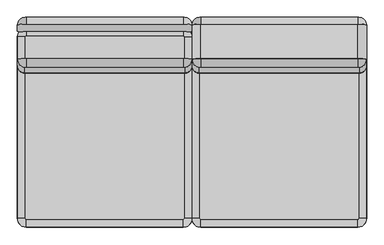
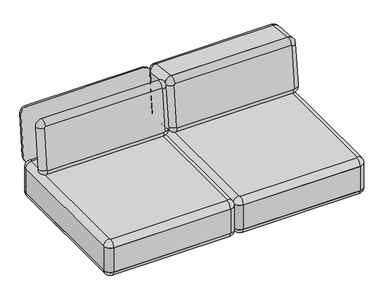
"""IFC4 building model written with IfcOpenShell, lengths in millimetres: furniture geometry, Sofa_Bensen_Neo_NEO200IT : Sofa_Bensen_Neo_NEO200IT."""

from ifc_helpers import new_model, si_unit, point, frame, frame_2d, origin, place, context, project, spatial, polyline, circle_curve, ellipse_curve, trimmed, segment, composite_curve, outline, extrude, source, transform, mapped, element, save
from ifc_brep_helpers import plane_surface, cylinder_surface, revolved_surface, advanced_brep


def furniture_4171b688(model_context):
    return source(origin(), model_context, "Body", "SolidModel", [
        advanced_brep(
        [(664.9999999, -485.7516759, 289.4004127), (699.9999999, -450.7516759, 289.4004127), (699.9999999, 279.2483241, 289.4004127), (664.9999999, 314.2483241, 289.4004127), (34.9999999, 314.2483241, 289.4004127), (-1e-07, 279.2483241, 289.4004127), (-1e-07, -450.7516759, 289.4004127), (34.9999999, -485.7516759, 289.4004127), (669.9999999, -450.7516759, 259.4004127), (664.9999999, -455.7516759, 259.4004127), (34.9999999, -455.7516759, 259.4004127), (29.9999999, -450.7516759, 259.4004127), (29.9999999, 279.2483241, 259.4004127), (34.9999999, 284.2483241, 259.4004127), (664.9999999, 284.2483241, 259.4004127), (669.9999999, 279.2483241, 259.4004127)],
        [
            (0, 1, circle_curve(frame((664.9999999, -450.7516759, 289.4004127), z_axis=(0.0, 0.0, 1.0), x_axis=(1.0, 0.0, 0.0)), 35.0)),
            (1, 2),
            (2, 3, circle_curve(frame((664.9999999, 279.2483241, 289.4004127), z_axis=(0.0, 0.0, 1.0), x_axis=(0.0, 1.0, 0.0)), 35.0)),
            (3, 4),
            (4, 5, circle_curve(frame((34.9999999, 279.2483241, 289.4004127), z_axis=(0.0, 0.0, 1.0), x_axis=(-1.0, 0.0, 0.0)), 35.0)),
            (5, 6),
            (6, 7, circle_curve(frame((34.9999999, -450.7516759, 289.4004127), z_axis=(0.0, 0.0, 1.0), x_axis=(0.0, -1.0, 0.0)), 35.0)),
            (7, 0),
            (8, 9, circle_curve(frame((664.9999999, -450.7516759, 259.4004127), z_axis=(0.0, 0.0, -1.0), x_axis=(1.0, 0.0, 0.0)), 5.0)),
            (9, 10),
            (10, 11, circle_curve(frame((34.9999999, -450.7516759, 259.4004127), z_axis=(0.0, 0.0, -1.0), x_axis=(0.0, -1.0, 0.0)), 5.0)),
            (11, 12),
            (12, 13, circle_curve(frame((34.9999999, 279.2483241, 259.4004127), z_axis=(0.0, 0.0, -1.0), x_axis=(-1.0, 0.0, 0.0)), 5.0)),
            (13, 14),
            (14, 15, circle_curve(frame((664.9999999, 279.2483241, 259.4004127), z_axis=(0.0, 0.0, -1.0), x_axis=(0.0, 1.0, 0.0)), 5.0)),
            (15, 8),
            (8, 1, circle_curve(frame((669.9999999, -450.7516759, 289.4004127), z_axis=(0.0, -1.0, 0.0), x_axis=(1.0, 0.0, 0.0)), 30.0)),
            (0, 9, circle_curve(frame((664.9999999, -455.7516759, 289.4004127), z_axis=(1.0, 0.0, 0.0), x_axis=(0.0, -1.0, 0.0)), 30.0)),
            (7, 10, circle_curve(frame((34.9999999, -455.7516759, 289.4004127), z_axis=(1.0, 0.0, 0.0), x_axis=(0.0, -1.0, 0.0)), 30.0)),
            (6, 11, circle_curve(frame((29.9999999, -450.7516759, 289.4004127), z_axis=(0.0, -1.0, 0.0), x_axis=(-1.0, 0.0, 0.0)), 30.0)),
            (5, 12, circle_curve(frame((29.9999999, 279.2483241, 289.4004127), z_axis=(0.0, -1.0, 0.0), x_axis=(-1.0, 0.0, 0.0)), 30.0)),
            (4, 13, circle_curve(frame((34.9999999, 284.2483241, 289.4004127), z_axis=(-1.0, 0.0, 0.0), x_axis=(0.0, 1.0, 0.0)), 30.0)),
            (3, 14, circle_curve(frame((664.9999999, 284.2483241, 289.4004127), z_axis=(-1.0, 0.0, 0.0), x_axis=(0.0, 1.0, 0.0)), 30.0)),
            (2, 15, circle_curve(frame((669.9999999, 279.2483241, 289.4004127), z_axis=(0.0, 1.0, 0.0), x_axis=(1.0, 0.0, 0.0)), 30.0)),
        ],
        [
            plane_surface(frame((664.9999999, 274.2483241, 289.4004127), z_axis=(0.0, 0.0, 1.0), x_axis=(1.0, 0.0, 0.0))),
            plane_surface(frame((664.9999999, 274.2483241, 259.4004127), z_axis=(0.0, 0.0, -1.0), x_axis=(-1.0, 0.0, 0.0))),
            revolved_surface(trimmed(ellipse_curve(frame((669.9999999, -450.7516759, 289.4004127), z_axis=(0.0, 1.0, 0.0), x_axis=(1.0, 0.0, 0.0)), 30.0, 30.0), [point((699.9999999, -450.7516759, 289.4004127))], [point((669.9999999, -450.7516759, 259.4004127))], True, "CARTESIAN"), (664.9999999, -450.7516759, 289.4004127), (0.0, 0.0, -1.0)),
            cylinder_surface(frame((664.9999999, -455.7516759, 289.4004127), z_axis=(1.0, 0.0, 0.0), x_axis=(0.0, -1.0, 0.0)), 30.0),
            revolved_surface(trimmed(ellipse_curve(frame((34.9999999, -455.7516759, 289.4004127), z_axis=(1.0, 0.0, 0.0), x_axis=(0.0, -1.0, 0.0)), 30.0, 30.0), [point((34.9999999, -485.7516759, 289.4004127))], [point((34.9999999, -455.7516759, 259.4004127))], True, "CARTESIAN"), (34.9999999, -450.7516759, 289.4004127), (0.0, 0.0, -1.0)),
            cylinder_surface(frame((29.9999999, -450.7516759, 289.4004127), z_axis=(0.0, -1.0, 0.0), x_axis=(-1.0, 0.0, 0.0)), 30.0),
            revolved_surface(trimmed(ellipse_curve(frame((29.9999999, 279.2483241, 289.4004127), z_axis=(0.0, -1.0, 0.0), x_axis=(-1.0, 0.0, 0.0)), 30.0, 30.0), [point((-1e-07, 279.2483241, 289.4004127))], [point((29.9999999, 279.2483241, 259.4004127))], True, "CARTESIAN"), (34.9999999, 279.2483241, 289.4004127), (0.0, 0.0, -1.0)),
            cylinder_surface(frame((34.9999999, 284.2483241, 289.4004127), z_axis=(-1.0, 0.0, 0.0), x_axis=(0.0, 1.0, 0.0)), 30.0),
            revolved_surface(trimmed(ellipse_curve(frame((664.9999999, 284.2483241, 289.4004127), z_axis=(-1.0, 0.0, 0.0), x_axis=(0.0, 1.0, 0.0)), 30.0, 30.0), [point((664.9999999, 314.2483241, 289.4004127))], [point((664.9999999, 284.2483241, 259.4004127))], True, "CARTESIAN"), (664.9999999, 279.2483241, 289.4004127), (0.0, 0.0, -1.0)),
            cylinder_surface(frame((669.9999999, 279.2483241, 289.4004127), z_axis=(0.0, 1.0, 0.0), x_axis=(1.0, 0.0, 0.0)), 30.0),
        ],
        [
            (0, [[1, 2, 3, 4, 5, 6, 7, 8]]),
            (1, [[9, 10, 11, 12, 13, 14, 15, 16]]),
            (2, [[17, -1, 18, -9]]),
            (3, [[-18, -8, 19, -10]]),
            (4, [[-19, -7, 20, -11]]),
            (5, [[-20, -6, 21, -12]]),
            (6, [[-21, -5, 22, -13]]),
            (7, [[-22, -4, 23, -14]]),
            (8, [[-23, -3, 24, -15]]),
            (9, [[-17, -16, -24, -2]]),
        ],
    ),
        advanced_brep(
        [(664.9999999, -485.7516759, 429.4004127), (699.9999999, -450.7516759, 429.4004127), (669.9999999, -450.7516759, 459.4004127), (664.9999999, -455.7516759, 459.4004127), (34.9999999, -455.7516759, 459.4004127), (34.9999999, -485.7516759, 429.4004127), (29.9999999, -450.7516759, 459.4004127), (-1e-07, -450.7516759, 429.4004127), (29.9999999, 279.2483241, 459.4004127), (-1e-07, 279.2483241, 429.4004127), (34.9999999, 284.2483241, 459.4004127), (34.9999999, 314.2483241, 429.4004127), (664.9999999, 284.2483241, 459.4004127), (664.9999999, 314.2483241, 429.4004127), (669.9999999, 279.2483241, 459.4004127), (699.9999999, 279.2483241, 429.4004127)],
        [
            (0, 1, circle_curve(frame((664.9999999, -450.7516759, 429.4004127), z_axis=(0.0, 0.0, 1.0), x_axis=(1.0, 0.0, 0.0)), 35.0)),
            (1, 2, circle_curve(frame((669.9999999, -450.7516759, 429.4004127), z_axis=(0.0, -1.0, 0.0), x_axis=(1.0, 0.0, 0.0)), 30.0)),
            (2, 3, circle_curve(frame((664.9999999, -450.7516759, 459.4004127), z_axis=(0.0, 0.0, -1.0), x_axis=(1.0, 0.0, 0.0)), 5.0)),
            (3, 0, circle_curve(frame((664.9999999, -455.7516759, 429.4004127), z_axis=(1.0, 0.0, 0.0), x_axis=(0.0, -1.0, 0.0)), 30.0)),
            (3, 4),
            (4, 5, circle_curve(frame((34.9999999, -455.7516759, 429.4004127), z_axis=(1.0, 0.0, 0.0), x_axis=(0.0, -1.0, 0.0)), 30.0)),
            (5, 0),
            (4, 6, circle_curve(frame((34.9999999, -450.7516759, 459.4004127), z_axis=(0.0, 0.0, -1.0), x_axis=(0.0, -1.0, 0.0)), 5.0)),
            (6, 7, circle_curve(frame((29.9999999, -450.7516759, 429.4004127), z_axis=(0.0, -1.0, 0.0), x_axis=(-1.0, 0.0, 0.0)), 30.0)),
            (7, 5, circle_curve(frame((34.9999999, -450.7516759, 429.4004127), z_axis=(0.0, 0.0, 1.0), x_axis=(0.0, -1.0, 0.0)), 35.0)),
            (6, 8),
            (8, 9, circle_curve(frame((29.9999999, 279.2483241, 429.4004127), z_axis=(0.0, -1.0, 0.0), x_axis=(-1.0, 0.0, 0.0)), 30.0)),
            (9, 7),
            (8, 10, circle_curve(frame((34.9999999, 279.2483241, 459.4004127), z_axis=(0.0, 0.0, -1.0), x_axis=(-1.0, 0.0, 0.0)), 5.0)),
            (10, 11, circle_curve(frame((34.9999999, 284.2483241, 429.4004127), z_axis=(-1.0, 0.0, 0.0), x_axis=(0.0, 1.0, 0.0)), 30.0)),
            (11, 9, circle_curve(frame((34.9999999, 279.2483241, 429.4004127), z_axis=(0.0, 0.0, 1.0), x_axis=(-1.0, 0.0, 0.0)), 35.0)),
            (10, 12),
            (12, 13, circle_curve(frame((664.9999999, 284.2483241, 429.4004127), z_axis=(-1.0, 0.0, 0.0), x_axis=(0.0, 1.0, 0.0)), 30.0)),
            (13, 11),
            (12, 14, circle_curve(frame((664.9999999, 279.2483241, 459.4004127), z_axis=(0.0, 0.0, -1.0), x_axis=(0.0, 1.0, 0.0)), 5.0)),
            (14, 15, circle_curve(frame((669.9999999, 279.2483241, 429.4004127), z_axis=(0.0, 1.0, 0.0), x_axis=(1.0, 0.0, 0.0)), 30.0)),
            (15, 13, circle_curve(frame((664.9999999, 279.2483241, 429.4004127), z_axis=(0.0, 0.0, 1.0), x_axis=(0.0, 1.0, 0.0)), 35.0)),
            (1, 15),
            (14, 2),
        ],
        [
            revolved_surface(trimmed(ellipse_curve(frame((669.9999999, -450.7516759, 429.4004127), z_axis=(0.0, 1.0, 0.0), x_axis=(1.0, 0.0, 0.0)), 30.0, 30.0), [point((669.9999999, -450.7516759, 459.4004127))], [point((699.9999999, -450.7516759, 429.4004127))], True, "CARTESIAN"), (664.9999999, -450.7516759, 259.4004127), (0.0, 0.0, -1.0)),
            cylinder_surface(frame((664.9999999, -455.7516759, 429.4004127), z_axis=(1.0, 0.0, 0.0), x_axis=(0.0, -1.0, 0.0)), 30.0),
            revolved_surface(trimmed(ellipse_curve(frame((34.9999999, -455.7516759, 429.4004127), z_axis=(1.0, 0.0, 0.0), x_axis=(0.0, -1.0, 0.0)), 30.0, 30.0), [point((34.9999999, -455.7516759, 459.4004127))], [point((34.9999999, -485.7516759, 429.4004127))], True, "CARTESIAN"), (34.9999999, -450.7516759, 259.4004127), (0.0, 0.0, -1.0)),
            cylinder_surface(frame((29.9999999, -450.7516759, 429.4004127), z_axis=(0.0, -1.0, 0.0), x_axis=(-1.0, 0.0, 0.0)), 30.0),
            revolved_surface(trimmed(ellipse_curve(frame((29.9999999, 279.2483241, 429.4004127), z_axis=(0.0, -1.0, 0.0), x_axis=(-1.0, 0.0, 0.0)), 30.0, 30.0), [point((29.9999999, 279.2483241, 459.4004127))], [point((-1e-07, 279.2483241, 429.4004127))], True, "CARTESIAN"), (34.9999999, 279.2483241, 259.4004127), (0.0, 0.0, -1.0)),
            cylinder_surface(frame((34.9999999, 284.2483241, 429.4004127), z_axis=(-1.0, 0.0, 0.0), x_axis=(0.0, 1.0, 0.0)), 30.0),
            revolved_surface(trimmed(ellipse_curve(frame((664.9999999, 284.2483241, 429.4004127), z_axis=(-1.0, 0.0, 0.0), x_axis=(0.0, 1.0, 0.0)), 30.0, 30.0), [point((664.9999999, 284.2483241, 459.4004127))], [point((664.9999999, 314.2483241, 429.4004127))], True, "CARTESIAN"), (664.9999999, 279.2483241, 259.4004127), (0.0, 0.0, -1.0)),
            cylinder_surface(frame((669.9999999, 279.2483241, 429.4004127), z_axis=(0.0, 1.0, 0.0), x_axis=(1.0, 0.0, 0.0)), 30.0),
            plane_surface(frame((699.9999999, 279.2483241, 429.4004127), z_axis=(0.0, 0.0, -1.0), x_axis=(0.0, -1.0, 0.0))),
            plane_surface(frame((664.9999999, 274.2483241, 459.4004127), z_axis=(0.0, 0.0, 1.0), x_axis=(1.0, 0.0, 0.0))),
        ],
        [
            (0, [[1, 2, 3, 4]]),
            (1, [[-4, 5, 6, 7]]),
            (2, [[-6, 8, 9, 10]]),
            (3, [[-9, 11, 12, 13]]),
            (4, [[-12, 14, 15, 16]]),
            (5, [[-15, 17, 18, 19]]),
            (6, [[-18, 20, 21, 22]]),
            (7, [[-2, 23, -21, 24]]),
            (8, [[-1, -7, -10, -13, -16, -19, -22, -23]]),
            (9, [[-3, -24, -20, -17, -14, -11, -8, -5]]),
        ],
    ),
        extrude(outline(composite_curve([segment(polyline([(699.9999999, 279.2483241), (699.9999999, -450.7516759)]), True, "CONTINUOUS"), segment(trimmed(circle_curve(frame_2d((664.9999999, -450.7516759)), 35.0), [point((699.9999999, -450.7516759))], [point((664.9999999, -485.7516759))], False, "CARTESIAN"), True, "CONTINUOUS"), segment(polyline([(664.9999999, -485.7516759), (34.9999999, -485.7516759)]), True, "CONTINUOUS"), segment(trimmed(circle_curve(frame_2d((34.9999999, -450.7516759)), 35.0), [point((34.9999999, -485.7516759))], [point((-1e-07, -450.7516759))], False, "CARTESIAN"), True, "CONTINUOUS"), segment(polyline([(-1e-07, -450.7516759), (-1e-07, 279.2483241)]), True, "CONTINUOUS"), segment(trimmed(circle_curve(frame_2d((34.9999999, 279.2483241)), 35.0), [point((-1e-07, 279.2483241))], [point((34.9999999, 314.2483241))], False, "CARTESIAN"), True, "CONTINUOUS"), segment(polyline([(34.9999999, 314.2483241), (664.9999999, 314.2483241)]), True, "CONTINUOUS"), segment(trimmed(circle_curve(frame_2d((664.9999999, 279.2483241)), 35.0), [point((664.9999999, 314.2483241))], [point((699.9999999, 279.2483241))], False, "CARTESIAN"), True, "CONTINUOUS")], self_intersect=False)), frame((0.0, 0.0, 289.4004127), z_axis=(0.0, 0.0, 1.0), x_axis=(1.0, 0.0, 0.0)), (0.0, 0.0, 1.0), 140.0),
        advanced_brep(
        [(-35.0000001, -485.7516759, 289.4004127), (-1e-07, -450.7516759, 289.4004127), (-1e-07, 279.2483241, 289.4004127), (-35.0000001, 314.2483241, 289.4004127), (-665.0000001, 314.2483241, 289.4004127), (-700.0000001, 279.2483241, 289.4004127), (-700.0000001, -450.7516759, 289.4004127), (-665.0000001, -485.7516759, 289.4004127), (-30.0000001, -450.7516759, 259.4004127), (-35.0000001, -455.7516759, 259.4004127), (-665.0000001, -455.7516759, 259.4004127), (-670.0000001, -450.7516759, 259.4004127), (-670.0000001, 279.2483241, 259.4004127), (-665.0000001, 284.2483241, 259.4004127), (-35.0000001, 284.2483241, 259.4004127), (-30.0000001, 279.2483241, 259.4004127)],
        [
            (0, 1, circle_curve(frame((-35.0000001, -450.7516759, 289.4004127), z_axis=(0.0, 0.0, 1.0), x_axis=(1.0, 0.0, 0.0)), 35.0)),
            (1, 2),
            (2, 3, circle_curve(frame((-35.0000001, 279.2483241, 289.4004127), z_axis=(0.0, 0.0, 1.0), x_axis=(0.0, 1.0, 0.0)), 35.0)),
            (3, 4),
            (4, 5, circle_curve(frame((-665.0000001, 279.2483241, 289.4004127), z_axis=(0.0, 0.0, 1.0), x_axis=(-1.0, 0.0, 0.0)), 35.0)),
            (5, 6),
            (6, 7, circle_curve(frame((-665.0000001, -450.7516759, 289.4004127), z_axis=(0.0, 0.0, 1.0), x_axis=(0.0, -1.0, 0.0)), 35.0)),
            (7, 0),
            (8, 9, circle_curve(frame((-35.0000001, -450.7516759, 259.4004127), z_axis=(0.0, 0.0, -1.0), x_axis=(1.0, 0.0, 0.0)), 5.0)),
            (9, 10),
            (10, 11, circle_curve(frame((-665.0000001, -450.7516759, 259.4004127), z_axis=(0.0, 0.0, -1.0), x_axis=(0.0, -1.0, 0.0)), 5.0)),
            (11, 12),
            (12, 13, circle_curve(frame((-665.0000001, 279.2483241, 259.4004127), z_axis=(0.0, 0.0, -1.0), x_axis=(-1.0, 0.0, 0.0)), 5.0)),
            (13, 14),
            (14, 15, circle_curve(frame((-35.0000001, 279.2483241, 259.4004127), z_axis=(0.0, 0.0, -1.0), x_axis=(0.0, 1.0, 0.0)), 5.0)),
            (15, 8),
            (8, 1, circle_curve(frame((-30.0000001, -450.7516759, 289.4004127), z_axis=(0.0, -1.0, 0.0), x_axis=(1.0, 0.0, 0.0)), 30.0)),
            (0, 9, circle_curve(frame((-35.0000001, -455.7516759, 289.4004127), z_axis=(1.0, 0.0, 0.0), x_axis=(0.0, -1.0, 0.0)), 30.0)),
            (7, 10, circle_curve(frame((-665.0000001, -455.7516759, 289.4004127), z_axis=(1.0, 0.0, 0.0), x_axis=(0.0, -1.0, 0.0)), 30.0)),
            (6, 11, circle_curve(frame((-670.0000001, -450.7516759, 289.4004127), z_axis=(0.0, -1.0, 0.0), x_axis=(-1.0, 0.0, 0.0)), 30.0)),
            (5, 12, circle_curve(frame((-670.0000001, 279.2483241, 289.4004127), z_axis=(0.0, -1.0, 0.0), x_axis=(-1.0, 0.0, 0.0)), 30.0)),
            (4, 13, circle_curve(frame((-665.0000001, 284.2483241, 289.4004127), z_axis=(-1.0, 0.0, 0.0), x_axis=(0.0, 1.0, 0.0)), 30.0)),
            (3, 14, circle_curve(frame((-35.0000001, 284.2483241, 289.4004127), z_axis=(-1.0, 0.0, 0.0), x_axis=(0.0, 1.0, 0.0)), 30.0)),
            (2, 15, circle_curve(frame((-30.0000001, 279.2483241, 289.4004127), z_axis=(0.0, 1.0, 0.0), x_axis=(1.0, 0.0, 0.0)), 30.0)),
        ],
        [
            plane_surface(frame((-35.0000001, 274.2483241, 289.4004127), z_axis=(0.0, 0.0, 1.0), x_axis=(1.0, 0.0, 0.0))),
            plane_surface(frame((-35.0000001, 274.2483241, 259.4004127), z_axis=(0.0, 0.0, -1.0), x_axis=(-1.0, 0.0, 0.0))),
            revolved_surface(trimmed(ellipse_curve(frame((-30.0000001, -450.7516759, 289.4004127), z_axis=(0.0, 1.0, 0.0), x_axis=(1.0, 0.0, 0.0)), 30.0, 30.0), [point((-1e-07, -450.7516759, 289.4004127))], [point((-30.0000001, -450.7516759, 259.4004127))], True, "CARTESIAN"), (-35.0000001, -450.7516759, 289.4004127), (0.0, 0.0, -1.0)),
            cylinder_surface(frame((-35.0000001, -455.7516759, 289.4004127), z_axis=(1.0, 0.0, 0.0), x_axis=(0.0, -1.0, 0.0)), 30.0),
            revolved_surface(trimmed(ellipse_curve(frame((-665.0000001, -455.7516759, 289.4004127), z_axis=(1.0, 0.0, 0.0), x_axis=(0.0, -1.0, 0.0)), 30.0, 30.0), [point((-665.0000001, -485.7516759, 289.4004127))], [point((-665.0000001, -455.7516759, 259.4004127))], True, "CARTESIAN"), (-665.0000001, -450.7516759, 289.4004127), (0.0, 0.0, -1.0)),
            cylinder_surface(frame((-670.0000001, -450.7516759, 289.4004127), z_axis=(0.0, -1.0, 0.0), x_axis=(-1.0, 0.0, 0.0)), 30.0),
            revolved_surface(trimmed(ellipse_curve(frame((-670.0000001, 279.2483241, 289.4004127), z_axis=(0.0, -1.0, 0.0), x_axis=(-1.0, 0.0, 0.0)), 30.0, 30.0), [point((-700.0000001, 279.2483241, 289.4004127))], [point((-670.0000001, 279.2483241, 259.4004127))], True, "CARTESIAN"), (-665.0000001, 279.2483241, 289.4004127), (0.0, 0.0, -1.0)),
            cylinder_surface(frame((-665.0000001, 284.2483241, 289.4004127), z_axis=(-1.0, 0.0, 0.0), x_axis=(0.0, 1.0, 0.0)), 30.0),
            revolved_surface(trimmed(ellipse_curve(frame((-35.0000001, 284.2483241, 289.4004127), z_axis=(-1.0, 0.0, 0.0), x_axis=(0.0, 1.0, 0.0)), 30.0, 30.0), [point((-35.0000001, 314.2483241, 289.4004127))], [point((-35.0000001, 284.2483241, 259.4004127))], True, "CARTESIAN"), (-35.0000001, 279.2483241, 289.4004127), (0.0, 0.0, -1.0)),
            cylinder_surface(frame((-30.0000001, 279.2483241, 289.4004127), z_axis=(0.0, 1.0, 0.0), x_axis=(1.0, 0.0, 0.0)), 30.0),
        ],
        [
            (0, [[1, 2, 3, 4, 5, 6, 7, 8]]),
            (1, [[9, 10, 11, 12, 13, 14, 15, 16]]),
            (2, [[17, -1, 18, -9]]),
            (3, [[-18, -8, 19, -10]]),
            (4, [[-19, -7, 20, -11]]),
            (5, [[-20, -6, 21, -12]]),
            (6, [[-21, -5, 22, -13]]),
            (7, [[-22, -4, 23, -14]]),
            (8, [[-23, -3, 24, -15]]),
            (9, [[-17, -16, -24, -2]]),
        ],
    ),
        advanced_brep(
        [(-35.0000001, -485.7516759, 429.4004127), (-1e-07, -450.7516759, 429.4004127), (-30.0000001, -450.7516759, 459.4004127), (-35.0000001, -455.7516759, 459.4004127), (-665.0000001, -455.7516759, 459.4004127), (-665.0000001, -485.7516759, 429.4004127), (-670.0000001, -450.7516759, 459.4004127), (-700.0000001, -450.7516759, 429.4004127), (-670.0000001, 279.2483241, 459.4004127), (-700.0000001, 279.2483241, 429.4004127), (-665.0000001, 284.2483241, 459.4004127), (-665.0000001, 314.2483241, 429.4004127), (-35.0000001, 284.2483241, 459.4004127), (-35.0000001, 314.2483241, 429.4004127), (-30.0000001, 279.2483241, 459.4004127), (-1e-07, 279.2483241, 429.4004127)],
        [
            (0, 1, circle_curve(frame((-35.0000001, -450.7516759, 429.4004127), z_axis=(0.0, 0.0, 1.0), x_axis=(1.0, 0.0, 0.0)), 35.0)),
            (1, 2, circle_curve(frame((-30.0000001, -450.7516759, 429.4004127), z_axis=(0.0, -1.0, 0.0), x_axis=(1.0, 0.0, 0.0)), 30.0)),
            (2, 3, circle_curve(frame((-35.0000001, -450.7516759, 459.4004127), z_axis=(0.0, 0.0, -1.0), x_axis=(1.0, 0.0, 0.0)), 5.0)),
            (3, 0, circle_curve(frame((-35.0000001, -455.7516759, 429.4004127), z_axis=(1.0, 0.0, 0.0), x_axis=(0.0, -1.0, 0.0)), 30.0)),
            (3, 4),
            (4, 5, circle_curve(frame((-665.0000001, -455.7516759, 429.4004127), z_axis=(1.0, 0.0, 0.0), x_axis=(0.0, -1.0, 0.0)), 30.0)),
            (5, 0),
            (4, 6, circle_curve(frame((-665.0000001, -450.7516759, 459.4004127), z_axis=(0.0, 0.0, -1.0), x_axis=(0.0, -1.0, 0.0)), 5.0)),
            (6, 7, circle_curve(frame((-670.0000001, -450.7516759, 429.4004127), z_axis=(0.0, -1.0, 0.0), x_axis=(-1.0, 0.0, 0.0)), 30.0)),
            (7, 5, circle_curve(frame((-665.0000001, -450.7516759, 429.4004127), z_axis=(0.0, 0.0, 1.0), x_axis=(0.0, -1.0, 0.0)), 35.0)),
            (6, 8),
            (8, 9, circle_curve(frame((-670.0000001, 279.2483241, 429.4004127), z_axis=(0.0, -1.0, 0.0), x_axis=(-1.0, 0.0, 0.0)), 30.0)),
            (9, 7),
            (8, 10, circle_curve(frame((-665.0000001, 279.2483241, 459.4004127), z_axis=(0.0, 0.0, -1.0), x_axis=(-1.0, 0.0, 0.0)), 5.0)),
            (10, 11, circle_curve(frame((-665.0000001, 284.2483241, 429.4004127), z_axis=(-1.0, 0.0, 0.0), x_axis=(0.0, 1.0, 0.0)), 30.0)),
            (11, 9, circle_curve(frame((-665.0000001, 279.2483241, 429.4004127), z_axis=(0.0, 0.0, 1.0), x_axis=(-1.0, 0.0, 0.0)), 35.0)),
            (10, 12),
            (12, 13, circle_curve(frame((-35.0000001, 284.2483241, 429.4004127), z_axis=(-1.0, 0.0, 0.0), x_axis=(0.0, 1.0, 0.0)), 30.0)),
            (13, 11),
            (12, 14, circle_curve(frame((-35.0000001, 279.2483241, 459.4004127), z_axis=(0.0, 0.0, -1.0), x_axis=(0.0, 1.0, 0.0)), 5.0)),
            (14, 15, circle_curve(frame((-30.0000001, 279.2483241, 429.4004127), z_axis=(0.0, 1.0, 0.0), x_axis=(1.0, 0.0, 0.0)), 30.0)),
            (15, 13, circle_curve(frame((-35.0000001, 279.2483241, 429.4004127), z_axis=(0.0, 0.0, 1.0), x_axis=(0.0, 1.0, 0.0)), 35.0)),
            (1, 15),
            (14, 2),
        ],
        [
            revolved_surface(trimmed(ellipse_curve(frame((-30.0000001, -450.7516759, 429.4004127), z_axis=(0.0, 1.0, 0.0), x_axis=(1.0, 0.0, 0.0)), 30.0, 30.0), [point((-30.0000001, -450.7516759, 459.4004127))], [point((-1e-07, -450.7516759, 429.4004127))], True, "CARTESIAN"), (-35.0000001, -450.7516759, 259.4004127), (0.0, 0.0, -1.0)),
            cylinder_surface(frame((-35.0000001, -455.7516759, 429.4004127), z_axis=(1.0, 0.0, 0.0), x_axis=(0.0, -1.0, 0.0)), 30.0),
            revolved_surface(trimmed(ellipse_curve(frame((-665.0000001, -455.7516759, 429.4004127), z_axis=(1.0, 0.0, 0.0), x_axis=(0.0, -1.0, 0.0)), 30.0, 30.0), [point((-665.0000001, -455.7516759, 459.4004127))], [point((-665.0000001, -485.7516759, 429.4004127))], True, "CARTESIAN"), (-665.0000001, -450.7516759, 259.4004127), (0.0, 0.0, -1.0)),
            cylinder_surface(frame((-670.0000001, -450.7516759, 429.4004127), z_axis=(0.0, -1.0, 0.0), x_axis=(-1.0, 0.0, 0.0)), 30.0),
            revolved_surface(trimmed(ellipse_curve(frame((-670.0000001, 279.2483241, 429.4004127), z_axis=(0.0, -1.0, 0.0), x_axis=(-1.0, 0.0, 0.0)), 30.0, 30.0), [point((-670.0000001, 279.2483241, 459.4004127))], [point((-700.0000001, 279.2483241, 429.4004127))], True, "CARTESIAN"), (-665.0000001, 279.2483241, 259.4004127), (0.0, 0.0, -1.0)),
            cylinder_surface(frame((-665.0000001, 284.2483241, 429.4004127), z_axis=(-1.0, 0.0, 0.0), x_axis=(0.0, 1.0, 0.0)), 30.0),
            revolved_surface(trimmed(ellipse_curve(frame((-35.0000001, 284.2483241, 429.4004127), z_axis=(-1.0, 0.0, 0.0), x_axis=(0.0, 1.0, 0.0)), 30.0, 30.0), [point((-35.0000001, 284.2483241, 459.4004127))], [point((-35.0000001, 314.2483241, 429.4004127))], True, "CARTESIAN"), (-35.0000001, 279.2483241, 259.4004127), (0.0, 0.0, -1.0)),
            cylinder_surface(frame((-30.0000001, 279.2483241, 429.4004127), z_axis=(0.0, 1.0, 0.0), x_axis=(1.0, 0.0, 0.0)), 30.0),
            plane_surface(frame((-1e-07, 279.2483241, 429.4004127), z_axis=(0.0, 0.0, -1.0), x_axis=(0.0, -1.0, 0.0))),
            plane_surface(frame((-35.0000001, 274.2483241, 459.4004127), z_axis=(0.0, 0.0, 1.0), x_axis=(1.0, 0.0, 0.0))),
        ],
        [
            (0, [[1, 2, 3, 4]]),
            (1, [[-4, 5, 6, 7]]),
            (2, [[-6, 8, 9, 10]]),
            (3, [[-9, 11, 12, 13]]),
            (4, [[-12, 14, 15, 16]]),
            (5, [[-15, 17, 18, 19]]),
            (6, [[-18, 20, 21, 22]]),
            (7, [[-2, 23, -21, 24]]),
            (8, [[-1, -7, -10, -13, -16, -19, -22, -23]]),
            (9, [[-3, -24, -20, -17, -14, -11, -8, -5]]),
        ],
    ),
        extrude(outline(composite_curve([segment(polyline([(-1e-07, 279.2483241), (-1e-07, -450.7516759)]), True, "CONTINUOUS"), segment(trimmed(circle_curve(frame_2d((-35.0000001, -450.7516759)), 35.0), [point((-1e-07, -450.7516759))], [point((-35.0000001, -485.7516759))], False, "CARTESIAN"), True, "CONTINUOUS"), segment(polyline([(-35.0000001, -485.7516759), (-665.0000001, -485.7516759)]), True, "CONTINUOUS"), segment(trimmed(circle_curve(frame_2d((-665.0000001, -450.7516759)), 35.0), [point((-665.0000001, -485.7516759))], [point((-700.0000001, -450.7516759))], False, "CARTESIAN"), True, "CONTINUOUS"), segment(polyline([(-700.0000001, -450.7516759), (-700.0000001, 279.2483241)]), True, "CONTINUOUS"), segment(trimmed(circle_curve(frame_2d((-665.0000001, 279.2483241)), 35.0), [point((-700.0000001, 279.2483241))], [point((-665.0000001, 314.2483241))], False, "CARTESIAN"), True, "CONTINUOUS"), segment(polyline([(-665.0000001, 314.2483241), (-35.0000001, 314.2483241)]), True, "CONTINUOUS"), segment(trimmed(circle_curve(frame_2d((-35.0000001, 279.2483241)), 35.0), [point((-35.0000001, 314.2483241))], [point((-1e-07, 279.2483241))], False, "CARTESIAN"), True, "CONTINUOUS")], self_intersect=False)), frame((0.0, 0.0, 289.4004127), z_axis=(0.0, 0.0, 1.0), x_axis=(1.0, 0.0, 0.0)), (0.0, 0.0, 1.0), 140.0),
        advanced_brep(
        [(34.9999999, 330.2036921, 743.2087665), (-1e-07, 326.5451959, 708.4005002), (-1e-07, 302.5036494, 479.6604642), (34.9999999, 298.8451531, 444.8521979), (664.9999999, 298.8451531, 444.8521979), (699.9999999, 302.5036494, 479.6604642), (699.9999999, 326.5451959, 708.4005002), (664.9999999, 330.2036921, 743.2087665), (29.9999999, 356.3808528, 705.2646463), (34.9999999, 356.9034951, 710.2372557), (664.9999999, 356.9034951, 710.2372557), (669.9999999, 356.3808528, 705.2646463), (669.9999999, 332.3393062, 476.5246103), (664.9999999, 331.8166639, 471.5520008), (34.9999999, 331.8166639, 471.5520008), (29.9999999, 332.3393062, 476.5246103)],
        [
            (0, 1, circle_curve(frame((34.9999999, 326.5451959, 708.4005002), z_axis=(0.0, -0.9945218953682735, 0.10452846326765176), x_axis=(-1.0, 0.0, 0.0)), 35.0)),
            (1, 2),
            (2, 3, circle_curve(frame((34.9999999, 302.5036494, 479.6604642), z_axis=(0.0, -0.9945218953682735, 0.10452846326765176), x_axis=(0.0, -0.10452846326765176, -0.9945218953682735)), 35.0)),
            (3, 4),
            (4, 5, circle_curve(frame((664.9999999, 302.5036494, 479.6604642), z_axis=(0.0, -0.9945218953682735, 0.10452846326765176), x_axis=(1.0, 0.0, 0.0)), 35.0)),
            (5, 6),
            (6, 7, circle_curve(frame((664.9999999, 326.5451959, 708.4005002), z_axis=(0.0, -0.9945218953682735, 0.10452846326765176), x_axis=(0.0, 0.10452846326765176, 0.9945218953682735)), 35.0)),
            (7, 0),
            (8, 9, circle_curve(frame((34.9999999, 356.3808528, 705.2646463), z_axis=(0.0, 0.9945218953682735, -0.10452846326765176), x_axis=(-1.0, 0.0, 0.0)), 5.0)),
            (9, 10),
            (10, 11, circle_curve(frame((664.9999999, 356.3808528, 705.2646463), z_axis=(0.0, 0.9945218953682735, -0.10452846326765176), x_axis=(0.0, 0.10452846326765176, 0.9945218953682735)), 5.0)),
            (11, 12),
            (12, 13, circle_curve(frame((664.9999999, 332.3393062, 476.5246103), z_axis=(0.0, 0.9945218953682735, -0.10452846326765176), x_axis=(1.0, 0.0, 0.0)), 5.0)),
            (13, 14),
            (14, 15, circle_curve(frame((34.9999999, 332.3393062, 476.5246103), z_axis=(0.0, 0.9945218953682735, -0.10452846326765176), x_axis=(0.0, -0.10452846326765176, -0.9945218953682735)), 5.0)),
            (15, 8),
            (8, 1, circle_curve(frame((29.9999999, 326.5451959, 708.4005002), z_axis=(0.0, 0.10452846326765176, 0.9945218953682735), x_axis=(-1.0, 0.0, 0.0)), 30.0)),
            (0, 9, circle_curve(frame((34.9999999, 327.0678382, 713.3731096), z_axis=(-1.0, 0.0, 0.0), x_axis=(0.0, 0.10452846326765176, 0.9945218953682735)), 30.0)),
            (7, 10, circle_curve(frame((664.9999999, 327.0678382, 713.3731096), z_axis=(-1.0, 0.0, 0.0), x_axis=(0.0, 0.10452846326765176, 0.9945218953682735)), 30.0)),
            (6, 11, circle_curve(frame((669.9999999, 326.5451959, 708.4005002), z_axis=(0.0, 0.10452846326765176, 0.9945218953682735), x_axis=(1.0, 0.0, 0.0)), 30.0)),
            (5, 12, circle_curve(frame((669.9999999, 302.5036494, 479.6604642), z_axis=(0.0, 0.10452846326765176, 0.9945218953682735), x_axis=(1.0, 0.0, 0.0)), 30.0)),
            (4, 13, circle_curve(frame((664.9999999, 301.981007, 474.6878547), z_axis=(1.0, 0.0, 0.0), x_axis=(0.0, -0.10452846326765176, -0.9945218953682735)), 30.0)),
            (3, 14, circle_curve(frame((34.9999999, 301.981007, 474.6878547), z_axis=(1.0, 0.0, 0.0), x_axis=(0.0, -0.10452846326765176, -0.9945218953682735)), 30.0)),
            (2, 15, circle_curve(frame((29.9999999, 302.5036494, 479.6604642), z_axis=(0.0, -0.10452846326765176, -0.9945218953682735), x_axis=(-1.0, 0.0, 0.0)), 30.0)),
        ],
        [
            plane_surface(frame((34.9999999, 303.0262917, 484.6330737), z_axis=(0.0, -0.9945218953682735, 0.10452846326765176), x_axis=(-1.0, 0.0, 0.0))),
            plane_surface(frame((34.9999999, 332.8619485, 481.4972198), z_axis=(0.0, 0.9945218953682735, -0.10452846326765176), x_axis=(1.0, 0.0, 0.0))),
            revolved_surface(trimmed(ellipse_curve(frame((29.9999999, 326.5451959, 708.4005002), z_axis=(0.0, -0.10452846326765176, -0.9945218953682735), x_axis=(-1.0, 0.0, 0.0)), 30.0, 30.0), [point((-1e-07, 326.5451959, 708.4005002))], [point((29.9999999, 356.3808528, 705.2646463))], True, "CARTESIAN"), (34.9999999, 326.5451959, 708.4005002), (0.0, 0.9945218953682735, -0.10452846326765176)),
            cylinder_surface(frame((34.9999999, 327.0678382, 713.3731096), z_axis=(-1.0, 0.0, 0.0), x_axis=(0.0, 0.10452846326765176, 0.9945218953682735)), 30.0),
            revolved_surface(trimmed(ellipse_curve(frame((664.9999999, 327.0678382, 713.3731096), z_axis=(-1.0, 0.0, 0.0), x_axis=(0.0, 0.10452846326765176, 0.9945218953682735)), 30.0, 30.0), [point((664.9999999, 330.2036921, 743.2087665))], [point((664.9999999, 356.9034951, 710.2372557))], True, "CARTESIAN"), (664.9999999, 326.5451959, 708.4005002), (0.0, 0.9945218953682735, -0.10452846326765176)),
            cylinder_surface(frame((669.9999999, 326.5451959, 708.4005002), z_axis=(0.0, 0.10452846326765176, 0.9945218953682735), x_axis=(1.0, 0.0, 0.0)), 30.0),
            revolved_surface(trimmed(ellipse_curve(frame((669.9999999, 302.5036494, 479.6604642), z_axis=(0.0, 0.10452846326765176, 0.9945218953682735), x_axis=(1.0, 0.0, 0.0)), 30.0, 30.0), [point((699.9999999, 302.5036494, 479.6604642))], [point((669.9999999, 332.3393062, 476.5246103))], True, "CARTESIAN"), (664.9999999, 302.5036494, 479.6604642), (0.0, 0.9945218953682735, -0.10452846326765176)),
            cylinder_surface(frame((664.9999999, 301.981007, 474.6878547), z_axis=(1.0, 0.0, 0.0), x_axis=(0.0, -0.10452846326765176, -0.9945218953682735)), 30.0),
            revolved_surface(trimmed(ellipse_curve(frame((34.9999999, 301.981007, 474.6878547), z_axis=(1.0, 0.0, 0.0), x_axis=(0.0, -0.10452846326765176, -0.9945218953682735)), 30.0, 30.0), [point((34.9999999, 298.8451531, 444.8521979))], [point((34.9999999, 331.8166639, 471.5520008))], True, "CARTESIAN"), (34.9999999, 302.5036494, 479.6604642), (0.0, 0.9945218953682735, -0.10452846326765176)),
            cylinder_surface(frame((29.9999999, 302.5036494, 479.6604642), z_axis=(0.0, -0.10452846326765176, -0.9945218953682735), x_axis=(-1.0, 0.0, 0.0)), 30.0),
        ],
        [
            (0, [[1, 2, 3, 4, 5, 6, 7, 8]]),
            (1, [[9, 10, 11, 12, 13, 14, 15, 16]]),
            (2, [[17, -1, 18, -9]]),
            (3, [[-18, -8, 19, -10]]),
            (4, [[-19, -7, 20, -11]]),
            (5, [[-20, -6, 21, -12]]),
            (6, [[-21, -5, 22, -13]]),
            (7, [[-22, -4, 23, -14]]),
            (8, [[-23, -3, 24, -15]]),
            (9, [[-17, -16, -24, -2]]),
        ],
    ),
        advanced_brep(
        [(34.9999999, 190.9706268, 757.8427514), (-1e-07, 187.3121306, 723.034485), (29.9999999, 157.4764737, 726.1703389), (34.9999999, 157.999116, 731.1429484), (664.9999999, 157.999116, 731.1429484), (664.9999999, 190.9706268, 757.8427514), (669.9999999, 157.4764737, 726.1703389), (699.9999999, 187.3121306, 723.034485), (669.9999999, 133.4349271, 497.430303), (699.9999999, 163.270584, 494.2944491), (664.9999999, 132.9122848, 492.4576935), (664.9999999, 159.6120878, 459.4861827), (34.9999999, 132.9122848, 492.4576935), (34.9999999, 159.6120878, 459.4861827), (29.9999999, 133.4349271, 497.430303), (-1e-07, 163.270584, 494.2944491)],
        [
            (0, 1, circle_curve(frame((34.9999999, 187.3121306, 723.034485), z_axis=(0.0, -0.9945218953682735, 0.10452846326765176), x_axis=(-1.0, 0.0, 0.0)), 35.0)),
            (1, 2, circle_curve(frame((29.9999999, 187.3121306, 723.034485), z_axis=(0.0, 0.10452846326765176, 0.9945218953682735), x_axis=(-1.0, 0.0, 0.0)), 30.0)),
            (2, 3, circle_curve(frame((34.9999999, 157.4764737, 726.1703389), z_axis=(0.0, 0.9945218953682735, -0.10452846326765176), x_axis=(-1.0, 0.0, 0.0)), 5.0)),
            (3, 0, circle_curve(frame((34.9999999, 187.8347729, 728.0070945), z_axis=(-1.0, 0.0, 0.0), x_axis=(0.0, 0.10452846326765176, 0.9945218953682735)), 30.0)),
            (3, 4),
            (4, 5, circle_curve(frame((664.9999999, 187.8347729, 728.0070945), z_axis=(-1.0, 0.0, 0.0), x_axis=(0.0, 0.10452846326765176, 0.9945218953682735)), 30.0)),
            (5, 0),
            (4, 6, circle_curve(frame((664.9999999, 157.4764737, 726.1703389), z_axis=(0.0, 0.9945218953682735, -0.10452846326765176), x_axis=(0.0, 0.10452846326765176, 0.9945218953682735)), 5.0)),
            (6, 7, circle_curve(frame((669.9999999, 187.3121306, 723.034485), z_axis=(0.0, 0.10452846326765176, 0.9945218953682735), x_axis=(1.0, 0.0, 0.0)), 30.0)),
            (7, 5, circle_curve(frame((664.9999999, 187.3121306, 723.034485), z_axis=(0.0, -0.9945218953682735, 0.10452846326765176), x_axis=(0.0, 0.10452846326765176, 0.9945218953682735)), 35.0)),
            (6, 8),
            (8, 9, circle_curve(frame((669.9999999, 163.270584, 494.2944491), z_axis=(0.0, 0.10452846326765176, 0.9945218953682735), x_axis=(1.0, 0.0, 0.0)), 30.0)),
            (9, 7),
            (8, 10, circle_curve(frame((664.9999999, 133.4349271, 497.430303), z_axis=(0.0, 0.9945218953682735, -0.10452846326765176), x_axis=(1.0, 0.0, 0.0)), 5.0)),
            (10, 11, circle_curve(frame((664.9999999, 162.7479417, 489.3218396), z_axis=(1.0, 0.0, 0.0), x_axis=(0.0, -0.10452846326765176, -0.9945218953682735)), 30.0)),
            (11, 9, circle_curve(frame((664.9999999, 163.270584, 494.2944491), z_axis=(0.0, -0.9945218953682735, 0.10452846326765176), x_axis=(1.0, 0.0, 0.0)), 35.0)),
            (10, 12),
            (12, 13, circle_curve(frame((34.9999999, 162.7479417, 489.3218396), z_axis=(1.0, 0.0, 0.0), x_axis=(0.0, -0.10452846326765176, -0.9945218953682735)), 30.0)),
            (13, 11),
            (12, 14, circle_curve(frame((34.9999999, 133.4349271, 497.430303), z_axis=(0.0, 0.9945218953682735, -0.10452846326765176), x_axis=(0.0, -0.10452846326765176, -0.9945218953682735)), 5.0)),
            (14, 15, circle_curve(frame((29.9999999, 163.270584, 494.2944491), z_axis=(0.0, -0.10452846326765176, -0.9945218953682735), x_axis=(-1.0, 0.0, 0.0)), 30.0)),
            (15, 13, circle_curve(frame((34.9999999, 163.270584, 494.2944491), z_axis=(0.0, -0.9945218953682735, 0.10452846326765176), x_axis=(0.0, -0.10452846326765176, -0.9945218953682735)), 35.0)),
            (1, 15),
            (14, 2),
        ],
        [
            revolved_surface(trimmed(ellipse_curve(frame((29.9999999, 187.3121306, 723.034485), z_axis=(0.0, -0.10452846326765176, -0.9945218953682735), x_axis=(-1.0, 0.0, 0.0)), 30.0, 30.0), [point((29.9999999, 157.4764737, 726.1703389))], [point((-1e-07, 187.3121306, 723.034485))], True, "CARTESIAN"), (34.9999999, 356.3808528, 705.2646463), (0.0, 0.9945218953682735, -0.10452846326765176)),
            cylinder_surface(frame((34.9999999, 187.8347729, 728.0070945), z_axis=(-1.0, 0.0, 0.0), x_axis=(0.0, 0.10452846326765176, 0.9945218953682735)), 30.0),
            revolved_surface(trimmed(ellipse_curve(frame((664.9999999, 187.8347729, 728.0070945), z_axis=(-1.0, 0.0, 0.0), x_axis=(0.0, 0.10452846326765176, 0.9945218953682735)), 30.0, 30.0), [point((664.9999999, 157.999116, 731.1429484))], [point((664.9999999, 190.9706268, 757.8427514))], True, "CARTESIAN"), (664.9999999, 356.3808528, 705.2646463), (0.0, 0.9945218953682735, -0.10452846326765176)),
            cylinder_surface(frame((669.9999999, 187.3121306, 723.034485), z_axis=(0.0, 0.10452846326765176, 0.9945218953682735), x_axis=(1.0, 0.0, 0.0)), 30.0),
            revolved_surface(trimmed(ellipse_curve(frame((669.9999999, 163.270584, 494.2944491), z_axis=(0.0, 0.10452846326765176, 0.9945218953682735), x_axis=(1.0, 0.0, 0.0)), 30.0, 30.0), [point((669.9999999, 133.4349271, 497.430303))], [point((699.9999999, 163.270584, 494.2944491))], True, "CARTESIAN"), (664.9999999, 332.3393062, 476.5246103), (0.0, 0.9945218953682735, -0.10452846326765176)),
            cylinder_surface(frame((664.9999999, 162.7479417, 489.3218396), z_axis=(1.0, 0.0, 0.0), x_axis=(0.0, -0.10452846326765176, -0.9945218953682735)), 30.0),
            revolved_surface(trimmed(ellipse_curve(frame((34.9999999, 162.7479417, 489.3218396), z_axis=(1.0, 0.0, 0.0), x_axis=(0.0, -0.10452846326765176, -0.9945218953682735)), 30.0, 30.0), [point((34.9999999, 132.9122848, 492.4576935))], [point((34.9999999, 159.6120878, 459.4861827))], True, "CARTESIAN"), (34.9999999, 332.3393062, 476.5246103), (0.0, 0.9945218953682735, -0.10452846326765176)),
            cylinder_surface(frame((29.9999999, 163.270584, 494.2944491), z_axis=(0.0, -0.10452846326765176, -0.9945218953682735), x_axis=(-1.0, 0.0, 0.0)), 30.0),
            plane_surface(frame((-1e-07, 163.270584, 494.2944491), z_axis=(0.0, 0.9945218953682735, -0.10452846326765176), x_axis=(0.0, 0.10452846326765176, 0.9945218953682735))),
            plane_surface(frame((34.9999999, 133.9575695, 502.4029125), z_axis=(0.0, -0.9945218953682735, 0.10452846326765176), x_axis=(-1.0, 0.0, 0.0))),
        ],
        [
            (0, [[1, 2, 3, 4]]),
            (1, [[-4, 5, 6, 7]]),
            (2, [[-6, 8, 9, 10]]),
            (3, [[-9, 11, 12, 13]]),
            (4, [[-12, 14, 15, 16]]),
            (5, [[-15, 17, 18, 19]]),
            (6, [[-18, 20, 21, 22]]),
            (7, [[-2, 23, -21, 24]]),
            (8, [[-1, -7, -10, -13, -16, -19, -22, -23]]),
            (9, [[-3, -24, -20, -17, -14, -11, -8, -5]]),
        ],
    ),
        extrude(outline(composite_curve([segment(polyline([(-35.0, -35.0000001), (-35.0, 195.0)]), True, "CONTINUOUS"), segment(trimmed(circle_curve(frame_2d((0.0, 195.0)), 35.0), [point((-35.0, 195.0))], [point((0.0, 230.0))], False, "CARTESIAN"), True, "CONTINUOUS"), segment(polyline([(0.0, 230.0), (630.0, 230.0)]), True, "CONTINUOUS"), segment(trimmed(circle_curve(frame_2d((630.0, 195.0)), 35.0), [point((630.0, 230.0))], [point((665.0, 195.0))], False, "CARTESIAN"), True, "CONTINUOUS"), segment(polyline([(665.0, 195.0), (665.0, -35.0000001)]), True, "CONTINUOUS"), segment(trimmed(circle_curve(frame_2d((630.0, -35.0000001)), 35.0), [point((665.0, -35.0000001))], [point((630.0, -70.0))], False, "CARTESIAN"), True, "CONTINUOUS"), segment(polyline([(630.0, -70.0), (0.0, -70.0)]), True, "CONTINUOUS"), segment(trimmed(circle_curve(frame_2d((0.0, -35.0000001)), 35.0), [point((0.0, -70.0))], [point((-35.0, -35.0000001))], False, "CARTESIAN"), True, "CONTINUOUS")], self_intersect=False)), frame((34.9999999, 306.1621456, 514.4687306), z_axis=(0.0, -0.9945218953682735, 0.10452846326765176), x_axis=(1.0, 0.0, 0.0)), (0.0, 0.0, 1.0), 140.0),
        advanced_brep(
        [(-665.0000001, 330.2036921, 743.2087665), (-700.0000001, 326.5451959, 708.4005002), (-700.0000001, 302.5036494, 479.6604642), (-665.0000001, 298.8451531, 444.8521979), (-35.0000001, 298.8451531, 444.8521979), (-1e-07, 302.5036494, 479.6604642), (-1e-07, 326.5451959, 708.4005002), (-35.0000001, 330.2036921, 743.2087665), (-670.0000001, 356.3808528, 705.2646463), (-665.0000001, 356.9034951, 710.2372557), (-35.0000001, 356.9034951, 710.2372557), (-30.0000001, 356.3808528, 705.2646463), (-30.0000001, 332.3393062, 476.5246103), (-35.0000001, 331.8166639, 471.5520008), (-665.0000001, 331.8166639, 471.5520008), (-670.0000001, 332.3393062, 476.5246103)],
        [
            (0, 1, circle_curve(frame((-665.0000001, 326.5451959, 708.4005002), z_axis=(0.0, -0.9945218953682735, 0.10452846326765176), x_axis=(-1.0, 0.0, 0.0)), 35.0)),
            (1, 2),
            (2, 3, circle_curve(frame((-665.0000001, 302.5036494, 479.6604642), z_axis=(0.0, -0.9945218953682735, 0.10452846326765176), x_axis=(0.0, -0.10452846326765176, -0.9945218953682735)), 35.0)),
            (3, 4),
            (4, 5, circle_curve(frame((-35.0000001, 302.5036494, 479.6604642), z_axis=(0.0, -0.9945218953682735, 0.10452846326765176), x_axis=(1.0, 0.0, 0.0)), 35.0)),
            (5, 6),
            (6, 7, circle_curve(frame((-35.0000001, 326.5451959, 708.4005002), z_axis=(0.0, -0.9945218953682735, 0.10452846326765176), x_axis=(0.0, 0.10452846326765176, 0.9945218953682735)), 35.0)),
            (7, 0),
            (8, 9, circle_curve(frame((-665.0000001, 356.3808528, 705.2646463), z_axis=(0.0, 0.9945218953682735, -0.10452846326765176), x_axis=(-1.0, 0.0, 0.0)), 5.0)),
            (9, 10),
            (10, 11, circle_curve(frame((-35.0000001, 356.3808528, 705.2646463), z_axis=(0.0, 0.9945218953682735, -0.10452846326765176), x_axis=(0.0, 0.10452846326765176, 0.9945218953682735)), 5.0)),
            (11, 12),
            (12, 13, circle_curve(frame((-35.0000001, 332.3393062, 476.5246103), z_axis=(0.0, 0.9945218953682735, -0.10452846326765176), x_axis=(1.0, 0.0, 0.0)), 5.0)),
            (13, 14),
            (14, 15, circle_curve(frame((-665.0000001, 332.3393062, 476.5246103), z_axis=(0.0, 0.9945218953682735, -0.10452846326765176), x_axis=(0.0, -0.10452846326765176, -0.9945218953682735)), 5.0)),
            (15, 8),
            (8, 1, circle_curve(frame((-670.0000001, 326.5451959, 708.4005002), z_axis=(0.0, 0.10452846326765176, 0.9945218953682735), x_axis=(-1.0, 0.0, 0.0)), 30.0)),
            (0, 9, circle_curve(frame((-665.0000001, 327.0678382, 713.3731096), z_axis=(-1.0, 0.0, 0.0), x_axis=(0.0, 0.10452846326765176, 0.9945218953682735)), 30.0)),
            (7, 10, circle_curve(frame((-35.0000001, 327.0678382, 713.3731096), z_axis=(-1.0, 0.0, 0.0), x_axis=(0.0, 0.10452846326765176, 0.9945218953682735)), 30.0)),
            (6, 11, circle_curve(frame((-30.0000001, 326.5451959, 708.4005002), z_axis=(0.0, 0.10452846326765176, 0.9945218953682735), x_axis=(1.0, 0.0, 0.0)), 30.0)),
            (5, 12, circle_curve(frame((-30.0000001, 302.5036494, 479.6604642), z_axis=(0.0, 0.10452846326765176, 0.9945218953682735), x_axis=(1.0, 0.0, 0.0)), 30.0)),
            (4, 13, circle_curve(frame((-35.0000001, 301.981007, 474.6878547), z_axis=(1.0, 0.0, 0.0), x_axis=(0.0, -0.10452846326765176, -0.9945218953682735)), 30.0)),
            (3, 14, circle_curve(frame((-665.0000001, 301.981007, 474.6878547), z_axis=(1.0, 0.0, 0.0), x_axis=(0.0, -0.10452846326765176, -0.9945218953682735)), 30.0)),
            (2, 15, circle_curve(frame((-670.0000001, 302.5036494, 479.6604642), z_axis=(0.0, -0.10452846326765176, -0.9945218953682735), x_axis=(-1.0, 0.0, 0.0)), 30.0)),
        ],
        [
            plane_surface(frame((-665.0000001, 303.0262917, 484.6330737), z_axis=(0.0, -0.9945218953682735, 0.10452846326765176), x_axis=(-1.0, 0.0, 0.0))),
            plane_surface(frame((-665.0000001, 332.8619485, 481.4972198), z_axis=(0.0, 0.9945218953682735, -0.10452846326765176), x_axis=(1.0, 0.0, 0.0))),
            revolved_surface(trimmed(ellipse_curve(frame((-670.0000001, 326.5451959, 708.4005002), z_axis=(0.0, -0.10452846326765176, -0.9945218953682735), x_axis=(-1.0, 0.0, 0.0)), 30.0, 30.0), [point((-700.0000001, 326.5451959, 708.4005002))], [point((-670.0000001, 356.3808528, 705.2646463))], True, "CARTESIAN"), (-665.0000001, 326.5451959, 708.4005002), (0.0, 0.9945218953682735, -0.10452846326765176)),
            cylinder_surface(frame((-665.0000001, 327.0678382, 713.3731096), z_axis=(-1.0, 0.0, 0.0), x_axis=(0.0, 0.10452846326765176, 0.9945218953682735)), 30.0),
            revolved_surface(trimmed(ellipse_curve(frame((-35.0000001, 327.0678382, 713.3731096), z_axis=(-1.0, 0.0, 0.0), x_axis=(0.0, 0.10452846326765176, 0.9945218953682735)), 30.0, 30.0), [point((-35.0000001, 330.2036921, 743.2087665))], [point((-35.0000001, 356.9034951, 710.2372557))], True, "CARTESIAN"), (-35.0000001, 326.5451959, 708.4005002), (0.0, 0.9945218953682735, -0.10452846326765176)),
            cylinder_surface(frame((-30.0000001, 326.5451959, 708.4005002), z_axis=(0.0, 0.10452846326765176, 0.9945218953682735), x_axis=(1.0, 0.0, 0.0)), 30.0),
            revolved_surface(trimmed(ellipse_curve(frame((-30.0000001, 302.5036494, 479.6604642), z_axis=(0.0, 0.10452846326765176, 0.9945218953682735), x_axis=(1.0, 0.0, 0.0)), 30.0, 30.0), [point((-1e-07, 302.5036494, 479.6604642))], [point((-30.0000001, 332.3393062, 476.5246103))], True, "CARTESIAN"), (-35.0000001, 302.5036494, 479.6604642), (0.0, 0.9945218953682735, -0.10452846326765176)),
            cylinder_surface(frame((-35.0000001, 301.981007, 474.6878547), z_axis=(1.0, 0.0, 0.0), x_axis=(0.0, -0.10452846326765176, -0.9945218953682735)), 30.0),
            revolved_surface(trimmed(ellipse_curve(frame((-665.0000001, 301.981007, 474.6878547), z_axis=(1.0, 0.0, 0.0), x_axis=(0.0, -0.10452846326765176, -0.9945218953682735)), 30.0, 30.0), [point((-665.0000001, 298.8451531, 444.8521979))], [point((-665.0000001, 331.8166639, 471.5520008))], True, "CARTESIAN"), (-665.0000001, 302.5036494, 479.6604642), (0.0, 0.9945218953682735, -0.10452846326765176)),
            cylinder_surface(frame((-670.0000001, 302.5036494, 479.6604642), z_axis=(0.0, -0.10452846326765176, -0.9945218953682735), x_axis=(-1.0, 0.0, 0.0)), 30.0),
        ],
        [
            (0, [[1, 2, 3, 4, 5, 6, 7, 8]]),
            (1, [[9, 10, 11, 12, 13, 14, 15, 16]]),
            (2, [[17, -1, 18, -9]]),
            (3, [[-18, -8, 19, -10]]),
            (4, [[-19, -7, 20, -11]]),
            (5, [[-20, -6, 21, -12]]),
            (6, [[-21, -5, 22, -13]]),
            (7, [[-22, -4, 23, -14]]),
            (8, [[-23, -3, 24, -15]]),
            (9, [[-17, -16, -24, -2]]),
        ],
    ),
        advanced_brep(
        [(-665.0000001, 190.9706268, 757.8427514), (-700.0000001, 187.3121306, 723.034485), (-670.0000001, 157.4764737, 726.1703389), (-665.0000001, 157.999116, 731.1429484), (-35.0000001, 157.999116, 731.1429484), (-35.0000001, 190.9706268, 757.8427514), (-30.0000001, 157.4764737, 726.1703389), (-1e-07, 187.3121306, 723.034485), (-30.0000001, 133.4349271, 497.430303), (-1e-07, 163.270584, 494.2944491), (-35.0000001, 132.9122848, 492.4576935), (-35.0000001, 159.6120878, 459.4861827), (-665.0000001, 132.9122848, 492.4576935), (-665.0000001, 159.6120878, 459.4861827), (-670.0000001, 133.4349271, 497.430303), (-700.0000001, 163.270584, 494.2944491)],
        [
            (0, 1, circle_curve(frame((-665.0000001, 187.3121306, 723.034485), z_axis=(0.0, -0.9945218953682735, 0.10452846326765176), x_axis=(-1.0, 0.0, 0.0)), 35.0)),
            (1, 2, circle_curve(frame((-670.0000001, 187.3121306, 723.034485), z_axis=(0.0, 0.10452846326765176, 0.9945218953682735), x_axis=(-1.0, 0.0, 0.0)), 30.0)),
            (2, 3, circle_curve(frame((-665.0000001, 157.4764737, 726.1703389), z_axis=(0.0, 0.9945218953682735, -0.10452846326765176), x_axis=(-1.0, 0.0, 0.0)), 5.0)),
            (3, 0, circle_curve(frame((-665.0000001, 187.8347729, 728.0070945), z_axis=(-1.0, 0.0, 0.0), x_axis=(0.0, 0.10452846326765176, 0.9945218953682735)), 30.0)),
            (3, 4),
            (4, 5, circle_curve(frame((-35.0000001, 187.8347729, 728.0070945), z_axis=(-1.0, 0.0, 0.0), x_axis=(0.0, 0.10452846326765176, 0.9945218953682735)), 30.0)),
            (5, 0),
            (4, 6, circle_curve(frame((-35.0000001, 157.4764737, 726.1703389), z_axis=(0.0, 0.9945218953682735, -0.10452846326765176), x_axis=(0.0, 0.10452846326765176, 0.9945218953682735)), 5.0)),
            (6, 7, circle_curve(frame((-30.0000001, 187.3121306, 723.034485), z_axis=(0.0, 0.10452846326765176, 0.9945218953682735), x_axis=(1.0, 0.0, 0.0)), 30.0)),
            (7, 5, circle_curve(frame((-35.0000001, 187.3121306, 723.034485), z_axis=(0.0, -0.9945218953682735, 0.10452846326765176), x_axis=(0.0, 0.10452846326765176, 0.9945218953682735)), 35.0)),
            (6, 8),
            (8, 9, circle_curve(frame((-30.0000001, 163.270584, 494.2944491), z_axis=(0.0, 0.10452846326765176, 0.9945218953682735), x_axis=(1.0, 0.0, 0.0)), 30.0)),
            (9, 7),
            (8, 10, circle_curve(frame((-35.0000001, 133.4349271, 497.430303), z_axis=(0.0, 0.9945218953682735, -0.10452846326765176), x_axis=(1.0, 0.0, 0.0)), 5.0)),
            (10, 11, circle_curve(frame((-35.0000001, 162.7479417, 489.3218396), z_axis=(1.0, 0.0, 0.0), x_axis=(0.0, -0.10452846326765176, -0.9945218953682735)), 30.0)),
            (11, 9, circle_curve(frame((-35.0000001, 163.270584, 494.2944491), z_axis=(0.0, -0.9945218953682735, 0.10452846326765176), x_axis=(1.0, 0.0, 0.0)), 35.0)),
            (10, 12),
            (12, 13, circle_curve(frame((-665.0000001, 162.7479417, 489.3218396), z_axis=(1.0, 0.0, 0.0), x_axis=(0.0, -0.10452846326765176, -0.9945218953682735)), 30.0)),
            (13, 11),
            (12, 14, circle_curve(frame((-665.0000001, 133.4349271, 497.430303), z_axis=(0.0, 0.9945218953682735, -0.10452846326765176), x_axis=(0.0, -0.10452846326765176, -0.9945218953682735)), 5.0)),
            (14, 15, circle_curve(frame((-670.0000001, 163.270584, 494.2944491), z_axis=(0.0, -0.10452846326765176, -0.9945218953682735), x_axis=(-1.0, 0.0, 0.0)), 30.0)),
            (15, 13, circle_curve(frame((-665.0000001, 163.270584, 494.2944491), z_axis=(0.0, -0.9945218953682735, 0.10452846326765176), x_axis=(0.0, -0.10452846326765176, -0.9945218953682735)), 35.0)),
            (1, 15),
            (14, 2),
        ],
        [
            revolved_surface(trimmed(ellipse_curve(frame((-670.0000001, 187.3121306, 723.034485), z_axis=(0.0, -0.10452846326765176, -0.9945218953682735), x_axis=(-1.0, 0.0, 0.0)), 30.0, 30.0), [point((-670.0000001, 157.4764737, 726.1703389))], [point((-700.0000001, 187.3121306, 723.034485))], True, "CARTESIAN"), (-665.0000001, 356.3808528, 705.2646463), (0.0, 0.9945218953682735, -0.10452846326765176)),
            cylinder_surface(frame((-665.0000001, 187.8347729, 728.0070945), z_axis=(-1.0, 0.0, 0.0), x_axis=(0.0, 0.10452846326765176, 0.9945218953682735)), 30.0),
            revolved_surface(trimmed(ellipse_curve(frame((-35.0000001, 187.8347729, 728.0070945), z_axis=(-1.0, 0.0, 0.0), x_axis=(0.0, 0.10452846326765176, 0.9945218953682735)), 30.0, 30.0), [point((-35.0000001, 157.999116, 731.1429484))], [point((-35.0000001, 190.9706268, 757.8427514))], True, "CARTESIAN"), (-35.0000001, 356.3808528, 705.2646463), (0.0, 0.9945218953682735, -0.10452846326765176)),
            cylinder_surface(frame((-30.0000001, 187.3121306, 723.034485), z_axis=(0.0, 0.10452846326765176, 0.9945218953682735), x_axis=(1.0, 0.0, 0.0)), 30.0),
            revolved_surface(trimmed(ellipse_curve(frame((-30.0000001, 163.270584, 494.2944491), z_axis=(0.0, 0.10452846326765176, 0.9945218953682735), x_axis=(1.0, 0.0, 0.0)), 30.0, 30.0), [point((-30.0000001, 133.4349271, 497.430303))], [point((-1e-07, 163.270584, 494.2944491))], True, "CARTESIAN"), (-35.0000001, 332.3393062, 476.5246103), (0.0, 0.9945218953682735, -0.10452846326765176)),
            cylinder_surface(frame((-35.0000001, 162.7479417, 489.3218396), z_axis=(1.0, 0.0, 0.0), x_axis=(0.0, -0.10452846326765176, -0.9945218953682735)), 30.0),
            revolved_surface(trimmed(ellipse_curve(frame((-665.0000001, 162.7479417, 489.3218396), z_axis=(1.0, 0.0, 0.0), x_axis=(0.0, -0.10452846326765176, -0.9945218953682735)), 30.0, 30.0), [point((-665.0000001, 132.9122848, 492.4576935))], [point((-665.0000001, 159.6120878, 459.4861827))], True, "CARTESIAN"), (-665.0000001, 332.3393062, 476.5246103), (0.0, 0.9945218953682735, -0.10452846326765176)),
            cylinder_surface(frame((-670.0000001, 163.270584, 494.2944491), z_axis=(0.0, -0.10452846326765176, -0.9945218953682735), x_axis=(-1.0, 0.0, 0.0)), 30.0),
            plane_surface(frame((-700.0000001, 163.270584, 494.2944491), z_axis=(0.0, 0.9945218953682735, -0.10452846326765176), x_axis=(0.0, 0.10452846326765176, 0.9945218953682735))),
            plane_surface(frame((-665.0000001, 133.9575695, 502.4029125), z_axis=(0.0, -0.9945218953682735, 0.10452846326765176), x_axis=(-1.0, 0.0, 0.0))),
        ],
        [
            (0, [[1, 2, 3, 4]]),
            (1, [[-4, 5, 6, 7]]),
            (2, [[-6, 8, 9, 10]]),
            (3, [[-9, 11, 12, 13]]),
            (4, [[-12, 14, 15, 16]]),
            (5, [[-15, 17, 18, 19]]),
            (6, [[-18, 20, 21, 22]]),
            (7, [[-2, 23, -21, 24]]),
            (8, [[-1, -7, -10, -13, -16, -19, -22, -23]]),
            (9, [[-3, -24, -20, -17, -14, -11, -8, -5]]),
        ],
    ),
    ])


if __name__ == "__main__":
    model = new_model("IFC4")
    model_context = context("Model", 3, world=origin())
    ifc_project = project(units=[si_unit("LENGTHUNIT", "METRE", prefix="MILLI")], contexts=[model_context])
    site = spatial("IfcSite", under=ifc_project)
    building = spatial("IfcBuilding", under=site)
    placement = place(None, origin())
    furniture_shape = furniture_4171b688(model_context)
    element("IfcFurniture", 1, ObjectType="Sofa_Bensen_Neo_NEO200IT : Sofa_Bensen_Neo_NEO200IT", at=placement, inside=building, context=model_context, shape_type="MappedRepresentation", body=[
        mapped(furniture_shape, transform((0.0, 0.0, 0.0), x_axis=(1.0, 0.0, 0.0), y_axis=(0.0, 1.0, 0.0), z_axis=(0.0, 0.0, 1.0))),
    ])
    save(model, "model.ifc")
